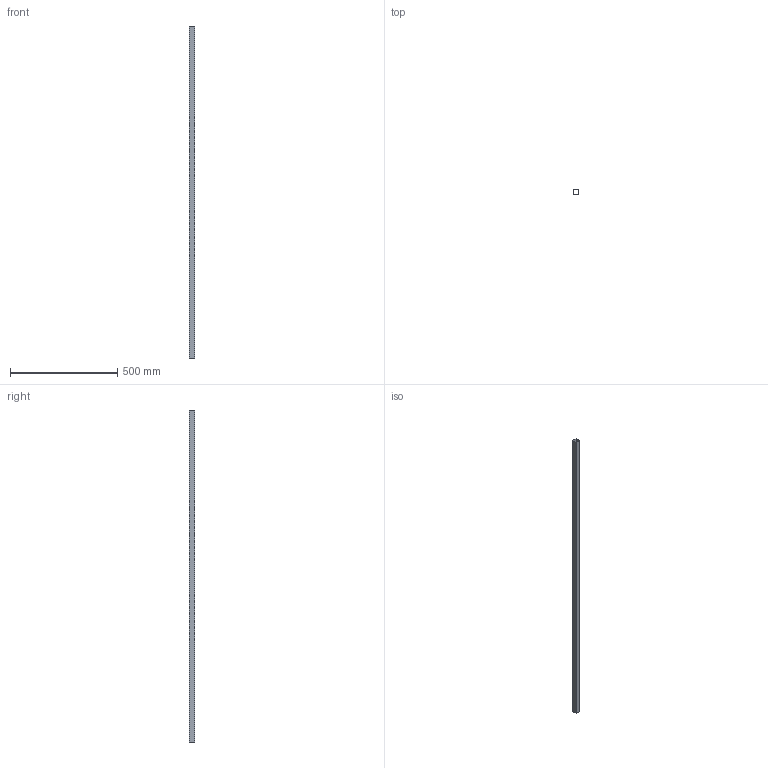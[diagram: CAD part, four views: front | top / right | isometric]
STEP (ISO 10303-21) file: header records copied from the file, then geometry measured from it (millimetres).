
FILE_DESCRIPTION (( 'STEP AP214' ), '1' );
FILE_NAME ('118.025.022W.STEP', '2020-08-04T15:27:39', ( '' ), ( '' ), 'SwSTEP 2.0', 'SolidWorks 2018', '' );
FILE_SCHEMA (( 'AUTOMOTIVE_DESIGN' ));
Length unit declared in the file: millimetre
Products named in the file (1): 118.025.022W
Bounding box: 25 x 25 x 1550 mm (x, y, z)
Volume: 211714.5 mm3; surface area: 292293.2 mm2
Topology: 1 solids, 1 shells, 10 faces, 24 edges, 16 vertices
Faces by surface type: plane 10
Entity records: 326 total; most frequent: CARTESIAN_POINT 51, ORIENTED_EDGE 48, DIRECTION 46, VECTOR 24, EDGE_CURVE 24, LINE 24, VERTEX_POINT 16, EDGE_LOOP 12
